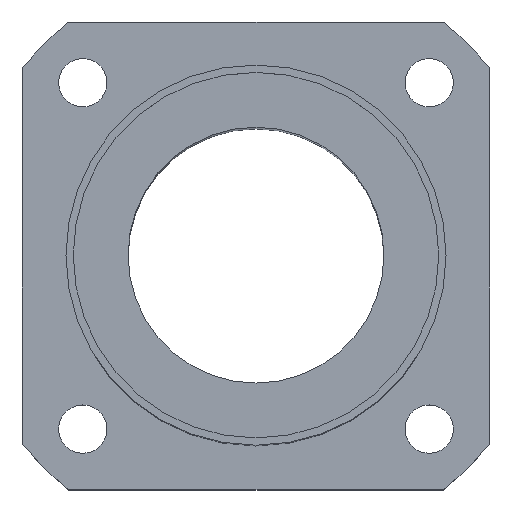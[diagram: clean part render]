
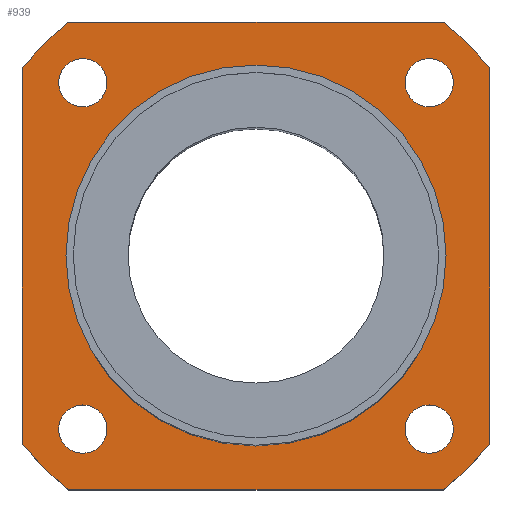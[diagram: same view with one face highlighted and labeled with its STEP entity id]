
A CAD part, top view. The second image highlights one B-rep face of the part: STEP entity #939.
In plain terms, the highlighted planar face has unit normal (0, 0, 1).
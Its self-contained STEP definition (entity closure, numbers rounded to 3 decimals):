
#49=CARTESIAN_POINT('',(-28.58,9.934,72.5));
#50=VERTEX_POINT('',#49);
#59=CARTESIAN_POINT('',(23.42,9.934,72.5));
#60=VERTEX_POINT('',#59);
#61=CARTESIAN_POINT('',(-2.58,9.934,72.5));
#62=DIRECTION('',(0.0,0.0,1.0));
#63=DIRECTION('',(-1.0,0.0,0.0));
#64=AXIS2_PLACEMENT_3D('',#61,#62,#63);
#65=CIRCLE('',#64,26.0);
#66=EDGE_CURVE('',#50,#60,#65,.T.);
#259=CARTESIAN_POINT('',(-22.968,33.622,72.5));
#260=VERTEX_POINT('',#259);
#269=CARTESIAN_POINT('',(-29.568,33.622,72.5));
#270=VERTEX_POINT('',#269);
#271=CARTESIAN_POINT('',(-26.268,33.622,72.5));
#272=DIRECTION('',(0.0,0.0,-1.0));
#273=DIRECTION('',(1.0,0.0,0.0));
#274=AXIS2_PLACEMENT_3D('',#271,#272,#273);
#275=CIRCLE('',#274,3.3);
#276=EDGE_CURVE('',#270,#260,#275,.T.);
#343=CARTESIAN_POINT('',(21.108,30.322,72.5));
#344=VERTEX_POINT('',#343);
#353=CARTESIAN_POINT('',(21.108,36.922,72.5));
#354=VERTEX_POINT('',#353);
#355=CARTESIAN_POINT('',(21.108,33.622,72.5));
#356=DIRECTION('',(0.0,0.0,-1.0));
#357=DIRECTION('',(0.0,-1.0,0.0));
#358=AXIS2_PLACEMENT_3D('',#355,#356,#357);
#359=CIRCLE('',#358,3.3);
#360=EDGE_CURVE('',#354,#344,#359,.T.);
#427=CARTESIAN_POINT('',(17.808,-13.754,72.5));
#428=VERTEX_POINT('',#427);
#437=CARTESIAN_POINT('',(24.408,-13.754,72.5));
#438=VERTEX_POINT('',#437);
#439=CARTESIAN_POINT('',(21.108,-13.754,72.5));
#440=DIRECTION('',(0.0,0.0,-1.0));
#441=DIRECTION('',(-1.0,0.0,0.0));
#442=AXIS2_PLACEMENT_3D('',#439,#440,#441);
#443=CIRCLE('',#442,3.3);
#444=EDGE_CURVE('',#438,#428,#443,.T.);
#511=CARTESIAN_POINT('',(-26.268,-10.454,72.5));
#512=VERTEX_POINT('',#511);
#521=CARTESIAN_POINT('',(-26.268,-17.054,72.5));
#522=VERTEX_POINT('',#521);
#523=CARTESIAN_POINT('',(-26.268,-13.754,72.5));
#524=DIRECTION('',(0.0,0.0,-1.0));
#525=DIRECTION('',(0.0,1.0,0.0));
#526=AXIS2_PLACEMENT_3D('',#523,#524,#525);
#527=CIRCLE('',#526,3.3);
#528=EDGE_CURVE('',#522,#512,#527,.T.);
#642=CARTESIAN_POINT('',(-26.268,-13.754,72.5));
#643=DIRECTION('',(0.0,0.0,-1.0));
#644=DIRECTION('',(0.0,1.0,0.0));
#645=AXIS2_PLACEMENT_3D('',#642,#643,#644);
#646=CIRCLE('',#645,3.3);
#647=EDGE_CURVE('',#512,#522,#646,.T.);
#704=CARTESIAN_POINT('',(21.108,-13.754,72.5));
#705=DIRECTION('',(0.0,0.0,-1.0));
#706=DIRECTION('',(-1.0,0.0,0.0));
#707=AXIS2_PLACEMENT_3D('',#704,#705,#706);
#708=CIRCLE('',#707,3.3);
#709=EDGE_CURVE('',#428,#438,#708,.T.);
#766=CARTESIAN_POINT('',(21.108,33.622,72.5));
#767=DIRECTION('',(0.0,0.0,-1.0));
#768=DIRECTION('',(0.0,-1.0,0.0));
#769=AXIS2_PLACEMENT_3D('',#766,#767,#768);
#770=CIRCLE('',#769,3.3);
#771=EDGE_CURVE('',#344,#354,#770,.T.);
#828=CARTESIAN_POINT('',(-26.268,33.622,72.5));
#829=DIRECTION('',(0.0,0.0,-1.0));
#830=DIRECTION('',(1.0,0.0,0.0));
#831=AXIS2_PLACEMENT_3D('',#828,#829,#830);
#832=CIRCLE('',#831,3.3);
#833=EDGE_CURVE('',#260,#270,#832,.T.);
#838=CARTESIAN_POINT('',(-2.58,9.934,72.5));
#839=DIRECTION('',(0.0,0.0,1.0));
#840=DIRECTION('',(1.0,0.0,0.0));
#841=AXIS2_PLACEMENT_3D('',#838,#839,#840);
#842=PLANE('',#841);
#843=CARTESIAN_POINT('',(23.052,-22.066,72.5));
#844=VERTEX_POINT('',#843);
#845=CARTESIAN_POINT('',(-28.212,-22.066,72.5));
#846=VERTEX_POINT('',#845);
#847=CARTESIAN_POINT('',(23.052,-22.066,72.5));
#848=DIRECTION('',(-1.0,0.0,0.0));
#849=VECTOR('',#848,51.264);
#850=LINE('',#847,#849);
#851=EDGE_CURVE('',#844,#846,#850,.T.);
#852=ORIENTED_EDGE('',*,*,#851,.F.);
#853=CARTESIAN_POINT('',(29.42,-15.698,72.5));
#854=VERTEX_POINT('',#853);
#855=CARTESIAN_POINT('',(-2.58,9.934,72.5));
#856=DIRECTION('',(0.0,0.0,-1.0));
#857=DIRECTION('',(-0.625,0.78,0.0));
#858=AXIS2_PLACEMENT_3D('',#855,#856,#857);
#859=CIRCLE('',#858,41.0);
#860=EDGE_CURVE('',#854,#844,#859,.T.);
#861=ORIENTED_EDGE('',*,*,#860,.F.);
#862=CARTESIAN_POINT('',(29.42,35.566,72.5));
#863=VERTEX_POINT('',#862);
#864=CARTESIAN_POINT('',(29.42,35.566,72.5));
#865=DIRECTION('',(0.0,-1.0,0.0));
#866=VECTOR('',#865,51.264);
#867=LINE('',#864,#866);
#868=EDGE_CURVE('',#863,#854,#867,.T.);
#869=ORIENTED_EDGE('',*,*,#868,.F.);
#870=CARTESIAN_POINT('',(23.052,41.934,72.5));
#871=VERTEX_POINT('',#870);
#872=CARTESIAN_POINT('',(-2.58,9.934,72.5));
#873=DIRECTION('',(0.0,0.0,-1.));
#874=DIRECTION('',(-0.78,-0.625,0.0));
#875=AXIS2_PLACEMENT_3D('',#872,#873,#874);
#876=CIRCLE('',#875,41.0);
#877=EDGE_CURVE('',#871,#863,#876,.T.);
#878=ORIENTED_EDGE('',*,*,#877,.F.);
#879=CARTESIAN_POINT('',(-28.212,41.934,72.5));
#880=VERTEX_POINT('',#879);
#881=CARTESIAN_POINT('',(-28.212,41.934,72.5));
#882=DIRECTION('',(1.0,0.0,0.0));
#883=VECTOR('',#882,51.264);
#884=LINE('',#881,#883);
#885=EDGE_CURVE('',#880,#871,#884,.T.);
#886=ORIENTED_EDGE('',*,*,#885,.F.);
#887=CARTESIAN_POINT('',(-34.58,35.566,72.5));
#888=VERTEX_POINT('',#887);
#889=CARTESIAN_POINT('',(-2.58,9.934,72.5));
#890=DIRECTION('',(0.0,0.0,-1.));
#891=DIRECTION('',(0.625,-0.78,0.0));
#892=AXIS2_PLACEMENT_3D('',#889,#890,#891);
#893=CIRCLE('',#892,41.0);
#894=EDGE_CURVE('',#888,#880,#893,.T.);
#895=ORIENTED_EDGE('',*,*,#894,.F.);
#896=CARTESIAN_POINT('',(-34.58,-15.698,72.5));
#897=VERTEX_POINT('',#896);
#898=CARTESIAN_POINT('',(-34.58,-15.698,72.5));
#899=DIRECTION('',(0.0,1.0,0.0));
#900=VECTOR('',#899,51.264);
#901=LINE('',#898,#900);
#902=EDGE_CURVE('',#897,#888,#901,.T.);
#903=ORIENTED_EDGE('',*,*,#902,.F.);
#904=CARTESIAN_POINT('',(-2.58,9.934,72.5));
#905=DIRECTION('',(0.0,0.0,-1.0));
#906=DIRECTION('',(0.78,0.625,0.0));
#907=AXIS2_PLACEMENT_3D('',#904,#905,#906);
#908=CIRCLE('',#907,41.0);
#909=EDGE_CURVE('',#846,#897,#908,.T.);
#910=ORIENTED_EDGE('',*,*,#909,.F.);
#911=EDGE_LOOP('',(#852,#861,#869,#878,#886,#895,#903,#910));
#912=FACE_OUTER_BOUND('',#911,.T.);
#913=ORIENTED_EDGE('',*,*,#528,.T.);
#914=ORIENTED_EDGE('',*,*,#647,.T.);
#915=EDGE_LOOP('',(#913,#914));
#916=FACE_BOUND('',#915,.T.);
#917=ORIENTED_EDGE('',*,*,#444,.T.);
#918=ORIENTED_EDGE('',*,*,#709,.T.);
#919=EDGE_LOOP('',(#917,#918));
#920=FACE_BOUND('',#919,.T.);
#921=ORIENTED_EDGE('',*,*,#360,.T.);
#922=ORIENTED_EDGE('',*,*,#771,.T.);
#923=EDGE_LOOP('',(#921,#922));
#924=FACE_BOUND('',#923,.T.);
#925=ORIENTED_EDGE('',*,*,#276,.T.);
#926=ORIENTED_EDGE('',*,*,#833,.T.);
#927=EDGE_LOOP('',(#925,#926));
#928=FACE_BOUND('',#927,.T.);
#929=CARTESIAN_POINT('',(-2.58,9.934,72.5));
#930=DIRECTION('',(0.0,0.0,1.0));
#931=DIRECTION('',(-1.0,0.0,0.0));
#932=AXIS2_PLACEMENT_3D('',#929,#930,#931);
#933=CIRCLE('',#932,26.0);
#934=EDGE_CURVE('',#60,#50,#933,.T.);
#935=ORIENTED_EDGE('',*,*,#934,.F.);
#936=ORIENTED_EDGE('',*,*,#66,.F.);
#937=EDGE_LOOP('',(#935,#936));
#938=FACE_BOUND('',#937,.T.);
#939=ADVANCED_FACE('',(#912,#916,#920,#924,#928,#938),#842,.T.);
